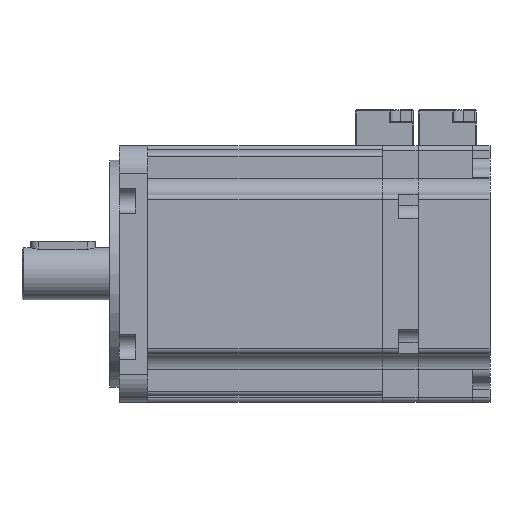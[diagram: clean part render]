
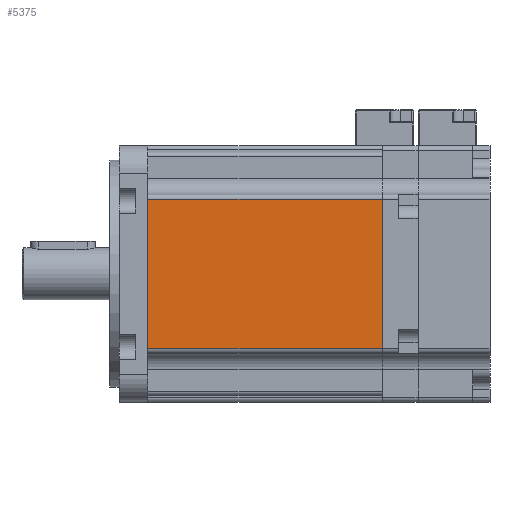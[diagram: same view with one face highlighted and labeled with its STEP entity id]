
A CAD part, left-side view. The second image highlights one B-rep face of the part: STEP entity #5375.
In plain terms, the highlighted planar face has unit normal (-1, 0, 0) as drawn and (0, 0, 1) by its records, which use the part's own axes.
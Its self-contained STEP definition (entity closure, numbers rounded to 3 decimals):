
#1198=ORIENTED_EDGE('',*,*,#2326,.F.);
#1199=ORIENTED_EDGE('',*,*,#2438,.T.);
#1200=ORIENTED_EDGE('',*,*,#2393,.T.);
#1201=ORIENTED_EDGE('',*,*,#2439,.F.);
#2326=EDGE_CURVE('',#3006,#3007,#3505,.T.);
#2393=EDGE_CURVE('',#3073,#3072,#3537,.T.);
#2438=EDGE_CURVE('',#3006,#3073,#3567,.T.);
#2439=EDGE_CURVE('',#3007,#3072,#3568,.T.);
#3006=VERTEX_POINT('',#9847);
#3007=VERTEX_POINT('',#9849);
#3072=VERTEX_POINT('',#9981);
#3073=VERTEX_POINT('',#9983);
#3505=LINE('',#9848,#4008);
#3537=LINE('',#9982,#4040);
#3567=LINE('',#10064,#4070);
#3568=LINE('',#10065,#4071);
#4008=VECTOR('',#8179,1000.);
#4040=VECTOR('',#8283,1000.);
#4070=VECTOR('',#8359,1000.);
#4071=VECTOR('',#8360,1000.);
#4452=EDGE_LOOP('',(#1198,#1199,#1200,#1201));
#4847=FACE_BOUND('',#4452,.T.);
#5156=PLANE('',#7227);
#5375=ADVANCED_FACE('',(#4847),#5156,.F.);
#7227=AXIS2_PLACEMENT_3D('',#10063,#8357,#8358);
#8179=DIRECTION('',(1.,0.,0.));
#8283=DIRECTION('',(1.,0.,0.));
#8357=DIRECTION('',(0.,0.,-1.));
#8358=DIRECTION('',(-1.,0.,0.));
#8359=DIRECTION('',(0.,-1.,0.));
#8360=DIRECTION('',(0.,-1.,0.));
#9847=CARTESIAN_POINT('',(16.5,72.4,79.1));
#9848=CARTESIAN_POINT('',(0.,72.4,79.1));
#9849=CARTESIAN_POINT('',(62.6,72.4,79.1));
#9981=CARTESIAN_POINT('',(62.6,0.,79.1));
#9982=CARTESIAN_POINT('',(0.,0.,79.1));
#9983=CARTESIAN_POINT('',(16.5,0.,79.1));
#10063=CARTESIAN_POINT('',(0.,72.4,79.1));
#10064=CARTESIAN_POINT('',(16.5,88.291,79.1));
#10065=CARTESIAN_POINT('',(62.6,88.291,79.1));
